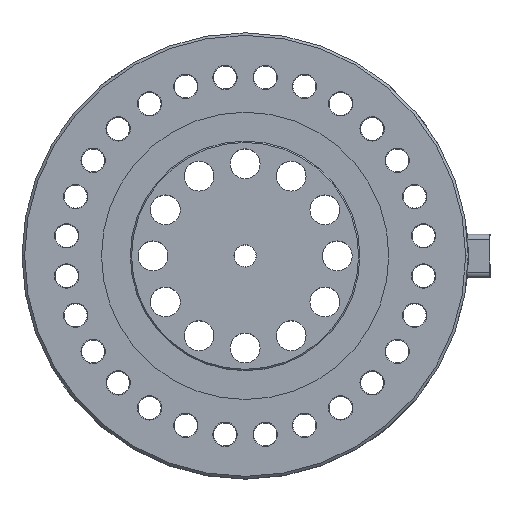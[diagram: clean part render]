
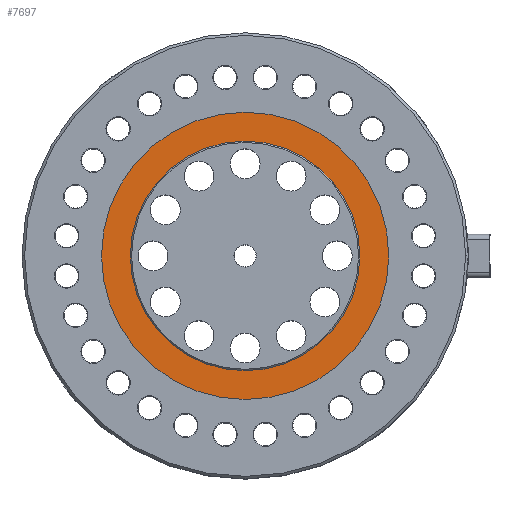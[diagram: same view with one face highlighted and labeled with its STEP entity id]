
A CAD part, top view. The second image highlights one B-rep face of the part: STEP entity #7697.
In plain terms, the highlighted planar face has unit normal (0, 0, 1).
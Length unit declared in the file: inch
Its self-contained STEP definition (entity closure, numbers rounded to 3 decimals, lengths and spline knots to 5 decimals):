
#61 = FACE_BOUND ( 'NONE', #7663, .T. ) ;
#62 = FACE_OUTER_BOUND ( 'NONE', #1571, .T. ) ;
#63 = PLANE ( 'NONE',  #64 ) ;
#64 = AXIS2_PLACEMENT_3D ( 'NONE', #65, #66, #72 ) ;
#65 = CARTESIAN_POINT ( 'NONE',  ( 6.67768, -6.67768, -0.085 ) ) ;
#66 = DIRECTION ( 'NONE',  ( 0., 0., -1. ) ) ;
#72 = DIRECTION ( 'NONE',  ( -1., 0., 0. ) ) ;
#581 = EDGE_CURVE ( 'NONE', #9556, #12800, #9764, .T. ) ;
#1002 = ORIENTED_EDGE ( 'NONE', *, *, #581, .F. ) ;
#1571 = EDGE_LOOP ( 'NONE', ( #1002, #8802 ) ) ;
#1851 = ORIENTED_EDGE ( 'NONE', *, *, #3116, .F. ) ;
#2427 = ORIENTED_EDGE ( 'NONE', *, *, #7630, .F. ) ;
#3116 = EDGE_CURVE ( 'NONE', #11521, #4494, #11186, .T. ) ;
#4494 = VERTEX_POINT ( 'NONE', #12029 ) ;
#5130 = CARTESIAN_POINT ( 'NONE',  ( -6.5985, 0., -0.085 ) ) ;
#5155 = CIRCLE ( 'NONE', #5156, 6.5985 ) ;
#5156 = AXIS2_PLACEMENT_3D ( 'NONE', #5157, #5158, #5168 ) ;
#5157 = CARTESIAN_POINT ( 'NONE',  ( 0., 0., -0.085 ) ) ;
#5158 = DIRECTION ( 'NONE',  ( 0., 0., -1. ) ) ;
#5168 = DIRECTION ( 'NONE',  ( -1., 0., 0. ) ) ;
#6329 = CARTESIAN_POINT ( 'NONE',  ( 5.2735, 0., -0.085 ) ) ;
#7058 = CARTESIAN_POINT ( 'NONE',  ( 6.5985, 0., -0.085 ) ) ;
#7630 = EDGE_CURVE ( 'NONE', #4494, #11521, #14351, .T. ) ;
#7663 = EDGE_LOOP ( 'NONE', ( #2427, #1851 ) ) ;
#7697 = ADVANCED_FACE ( 'NONE', ( #61, #62 ), #63, .F. ) ;
#8802 = ORIENTED_EDGE ( 'NONE', *, *, #9621, .F. ) ;
#9556 = VERTEX_POINT ( 'NONE', #5130 ) ;
#9621 = EDGE_CURVE ( 'NONE', #12800, #9556, #5155, .T. ) ;
#9764 = CIRCLE ( 'NONE', #9765, 6.5985 ) ;
#9765 = AXIS2_PLACEMENT_3D ( 'NONE', #9766, #9767, #9773 ) ;
#9766 = CARTESIAN_POINT ( 'NONE',  ( 0., 0., -0.085 ) ) ;
#9767 = DIRECTION ( 'NONE',  ( 0., 0., -1. ) ) ;
#9773 = DIRECTION ( 'NONE',  ( -1., 0., 0. ) ) ;
#11186 = CIRCLE ( 'NONE', #11187, 5.2735 ) ;
#11187 = AXIS2_PLACEMENT_3D ( 'NONE', #11188, #11189, #11190 ) ;
#11188 = CARTESIAN_POINT ( 'NONE',  ( 0., 0., -0.085 ) ) ;
#11189 = DIRECTION ( 'NONE',  ( 0., 0., 1. ) ) ;
#11190 = DIRECTION ( 'NONE',  ( -1., 0., 0. ) ) ;
#11521 = VERTEX_POINT ( 'NONE', #6329 ) ;
#12029 = CARTESIAN_POINT ( 'NONE',  ( -5.2735, 0., -0.085 ) ) ;
#12800 = VERTEX_POINT ( 'NONE', #7058 ) ;
#14351 = CIRCLE ( 'NONE', #14352, 5.2735 ) ;
#14352 = AXIS2_PLACEMENT_3D ( 'NONE', #14353, #14354, #14355 ) ;
#14353 = CARTESIAN_POINT ( 'NONE',  ( 0., 0., -0.085 ) ) ;
#14354 = DIRECTION ( 'NONE',  ( 0., 0., 1. ) ) ;
#14355 = DIRECTION ( 'NONE',  ( -1., 0., 0. ) ) ;
